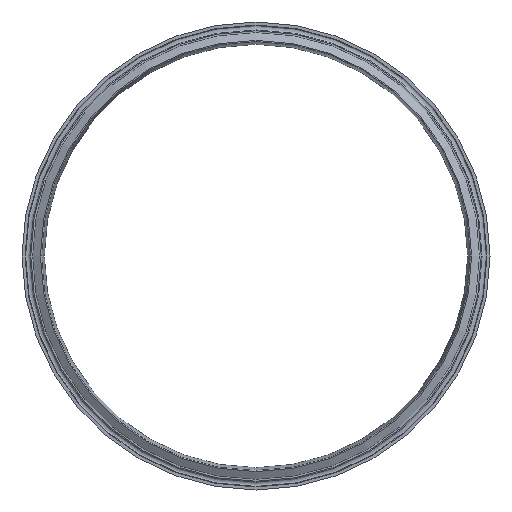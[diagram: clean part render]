
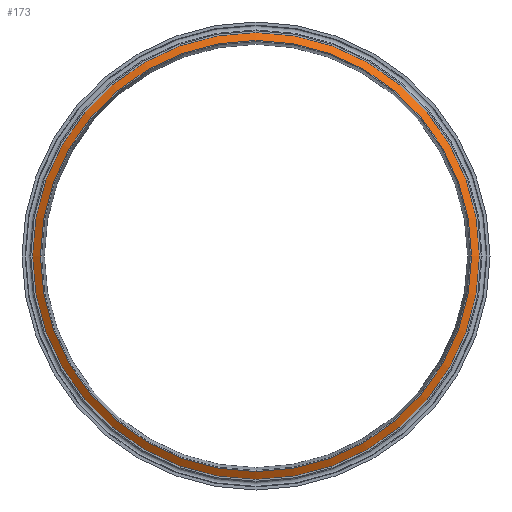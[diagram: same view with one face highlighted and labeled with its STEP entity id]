
A CAD part, front view. The second image highlights one B-rep face of the part: STEP entity #173.
In plain terms, the highlighted conical face has half-angle 60 degrees and reference radius 61.715 mm.
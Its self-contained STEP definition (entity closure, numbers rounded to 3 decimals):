
#24=CONICAL_SURFACE('',#205,61.715,1.047);
#38=ORIENTED_EDGE('',*,*,#66,.T.);
#39=ORIENTED_EDGE('',*,*,#65,.F.);
#65=EDGE_CURVE('',#80,#80,#95,.T.);
#66=EDGE_CURVE('',#81,#81,#96,.T.);
#80=VERTEX_POINT('',#301);
#81=VERTEX_POINT('',#304);
#95=CIRCLE('',#204,61.715);
#96=CIRCLE('',#206,63.92);
#113=EDGE_LOOP('',(#38));
#114=EDGE_LOOP('',(#39));
#143=FACE_BOUND('',#113,.T.);
#144=FACE_BOUND('',#114,.T.);
#173=ADVANCED_FACE('',(#143,#144),#24,.T.);
#204=AXIS2_PLACEMENT_3D('',#300,#242,#243);
#205=AXIS2_PLACEMENT_3D('',#302,#244,#245);
#206=AXIS2_PLACEMENT_3D('',#303,#246,#247);
#242=DIRECTION('',(0.,-1.,0.));
#243=DIRECTION('',(0.,0.,-1.));
#244=DIRECTION('',(0.,1.,0.));
#245=DIRECTION('',(0.,0.,1.));
#246=DIRECTION('',(0.,-1.,0.));
#247=DIRECTION('',(0.,0.,-1.));
#300=CARTESIAN_POINT('',(0.,0.027,0.));
#301=CARTESIAN_POINT('',(0.,0.027,-61.715));
#302=CARTESIAN_POINT('',(0.,0.027,0.));
#303=CARTESIAN_POINT('',(0.,1.3,0.));
#304=CARTESIAN_POINT('',(0.,1.3,-63.92));
